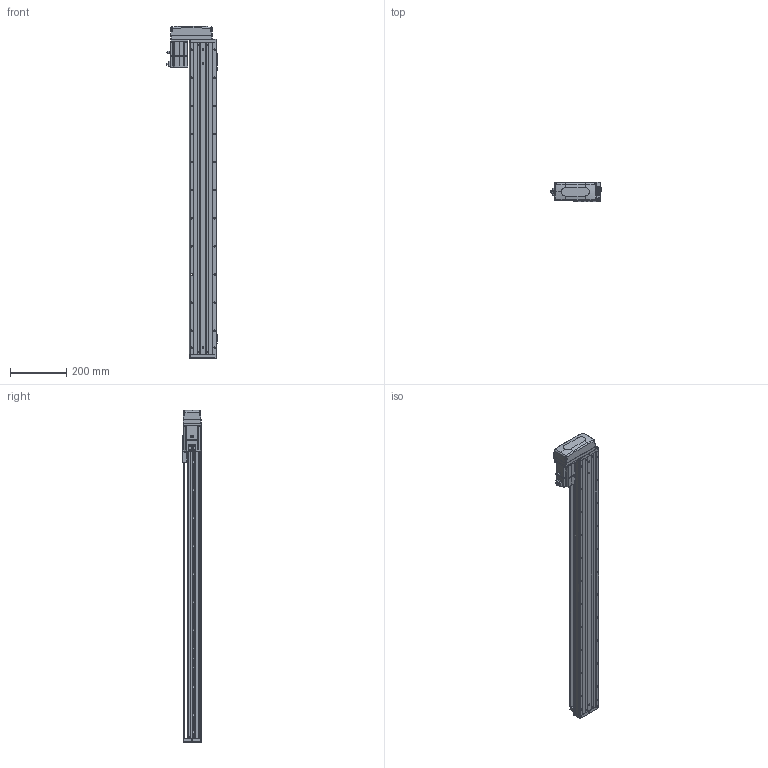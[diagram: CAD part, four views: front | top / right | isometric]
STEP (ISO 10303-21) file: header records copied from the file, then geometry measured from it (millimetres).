
FILE_DESCRIPTION (( 'STEP AP203' ), '1' );
FILE_NAME ('KTHA100-950-BR-M20-C4L.step', '2022-04-26T02:01:40', ( '微软用户' ), ( '微软中国' ), 'SwSTEP 2.0', 'SolidWorks 2020', '' );
FILE_SCHEMA (( 'CONFIG_CONTROL_DESIGN' ));
Length unit declared in the file: millimetre
Products named in the file (17): KTHA100-004; GBT 70.1-M3℅6; KTHA100-950-BR-M20-C4L; KTHA100-005; GBT70.1 M5℅16; GB¨uT 70.2-M3¡Á5_M3¡Á6; CTHA60-016; EE_SX911P_R; GBT 70.3-M3℅6; CTHA60-017; _X2_4E0983F1_X0_200W_1; KTHA100-001_1110; CTHA60-021; CTHA86-015-1_CTHA86-015-2; KTHA100-002; GBT77-2000 M3×3; CTHA86-033
Assembly tree (57 placements, depth 2):
  KTHA100-950-BR-M20-C4L
    KTHA100-001_1110
    KTHA100-002
    KTHA100-004
    KTHA100-005
    GB¨uT 70.2-M3¡Á5_M3¡Á6  x6
    EE_SX911P_R  x3
    CTHA60-017  x3
    CTHA60-021  x2
    GBT77-2000 M3×3  x6
    GBT 70.1-M3℅6  x10
    GBT70.1 M5℅16  x14
    CTHA60-016  x2
    GBT 70.3-M3℅6  x4
    _X2_4E0983F1_X0_200W_1
    CTHA86-015-1_CTHA86-015-2
    CTHA86-033
Bounding box: 178.52 x 68 x 1181 mm (x, y, z)
Volume: 4939156 mm3; surface area: 799734.5 mm2
Topology: 60 solids, 60 shells, 2517 faces, 6057 edges, 3760 vertices
Faces by surface type: plane 1292, cylinder 701, cone 317, torus 116, bspline 75, sphere 16
Entity records: 44532 total; most frequent: CARTESIAN_POINT 8896, DIRECTION 6932, ORIENTED_EDGE 6726, EDGE_CURVE 3363, AXIS2_PLACEMENT_3D 2404, LINE 2124, VECTOR 2124, VERTEX_POINT 2120
